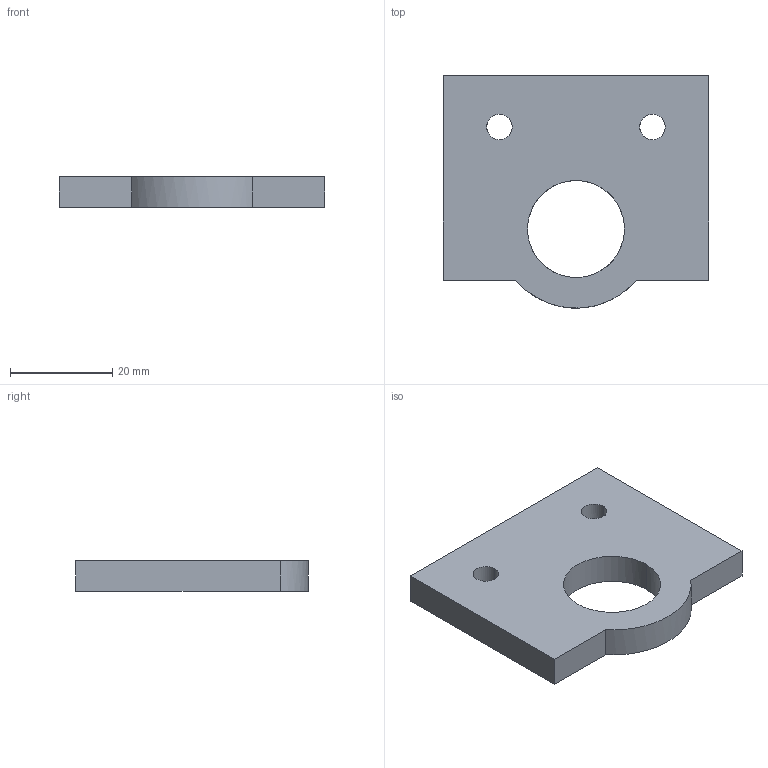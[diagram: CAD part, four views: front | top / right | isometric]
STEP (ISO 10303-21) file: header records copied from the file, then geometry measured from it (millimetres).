
FILE_DESCRIPTION(/* description */ (''),/* implementation_level */ '2;1');
FILE_NAME(/* name */ '8.x-drive#8.1#la-mpk-13',/* time_stamp */ '2014-12-01T20:17:53+01:00',/* author */ (''),/* organization */ (''),/* preprocessor_version */ 'ST-DEVELOPER v14',/* originating_system */ '',/* authorisation */ '');
FILE_SCHEMA (('AUTOMOTIVE_DESIGN'));
Length unit declared in the file: millimetre
Products named in the file (1): Document
Bounding box: 52 x 45.49 x 6 mm (x, y, z)
Volume: 11083.5 mm3; surface area: 5366 mm2
Topology: 1 solids, 1 shells, 14 faces, 36 edges, 24 vertices
Faces by surface type: bspline 7, plane 7
Entity records: 944 total; most frequent: CARTESIAN_POINT 451, ORIENTED_EDGE 72, PCURVE 72, DEFINITIONAL_REPRESENTATION 72, B_SPLINE_CURVE_WITH_KNOTS 72, SURFACE_CURVE 36, EDGE_CURVE 36, VERTEX_POINT 24
